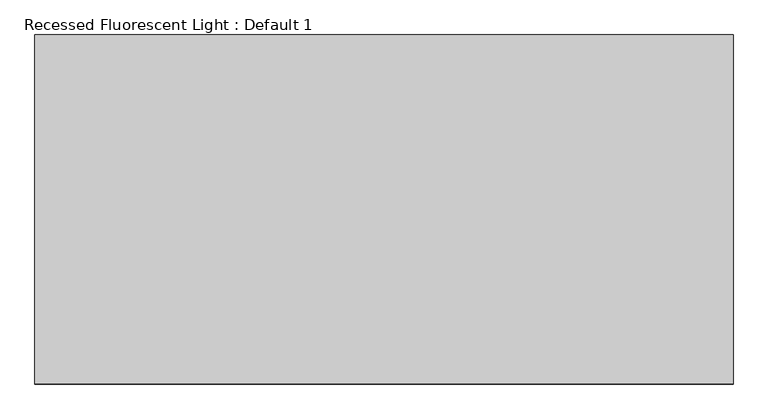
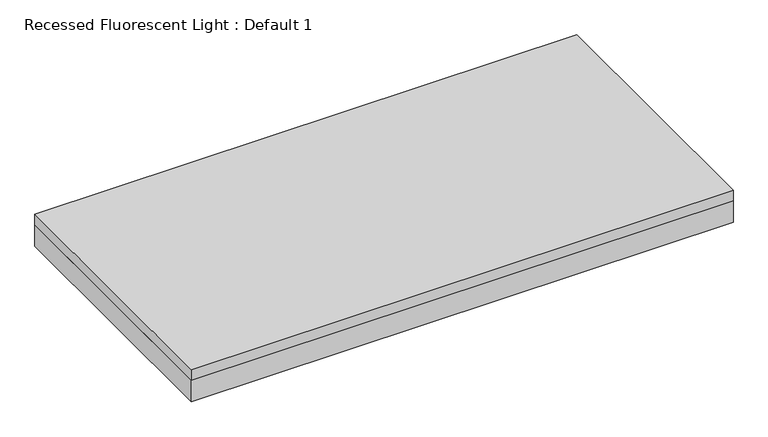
"""IFC4 building model written with IfcOpenShell, lengths in millimetres: light fixture geometry, Recessed Fluorescent Light : Default 1."""

from ifc_helpers import new_model, si_unit, frame, origin, place, context, project, spatial, polyline, outline, extrude, source, transform, mapped, element, save


def recessed_fluorescent_light_default_1_c438942c(model_context):
    return source(origin(), model_context, "Body", "SweptSolid", [
        extrude(outline(polyline([(609.6, 304.8), (609.6, -304.8), (-609.6, -304.8), (-609.6, 304.8), (609.6, 304.8)])), frame((0.0, 0.0, 2489.2), z_axis=(0.0, 0.0, 1.0), x_axis=(1.0, 0.0, 0.0)), (0.0, 0.0, 1.0), 25.4),
        extrude(outline(polyline([(-609.6, -304.8), (-609.6, 304.8), (609.6, 304.8), (609.6, 0.0), (609.6, -304.8), (-609.6, -304.8)]), holes=[polyline([(584.2, 279.4), (-584.2, 279.4), (-584.2, -279.4), (584.2, -279.4), (584.2, 0.0), (584.2, 279.4)])]), frame((0.0, 0.0, 2438.4), z_axis=(0.0, 0.0, 1.0), x_axis=(1.0, 0.0, 0.0)), (0.0, 0.0, 1.0), 50.8),
    ])


if __name__ == "__main__":
    model = new_model("IFC4")
    model_context = context("Model", 3, world=origin())
    ifc_project = project(units=[si_unit("LENGTHUNIT", "METRE", prefix="MILLI")], contexts=[model_context])
    site = spatial("IfcSite", under=ifc_project)
    building = spatial("IfcBuilding", under=site)
    placement = place(None, origin())
    recessed_fluorescent_light_default_1_shape = recessed_fluorescent_light_default_1_c438942c(model_context)
    element("IfcLightFixture", 1, ObjectType="Recessed Fluorescent Light : Default 1", at=placement, inside=building, context=model_context, shape_type="MappedRepresentation", body=[
        mapped(recessed_fluorescent_light_default_1_shape, transform((0.0, 0.0, 0.0), x_axis=(1.0, 0.0, 0.0), y_axis=(0.0, 1.0, 0.0), z_axis=(0.0, 0.0, 1.0))),
    ])
    save(model, "model.ifc")
